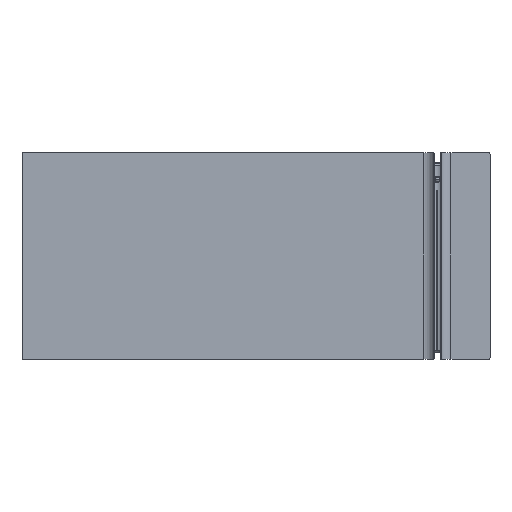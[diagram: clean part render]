
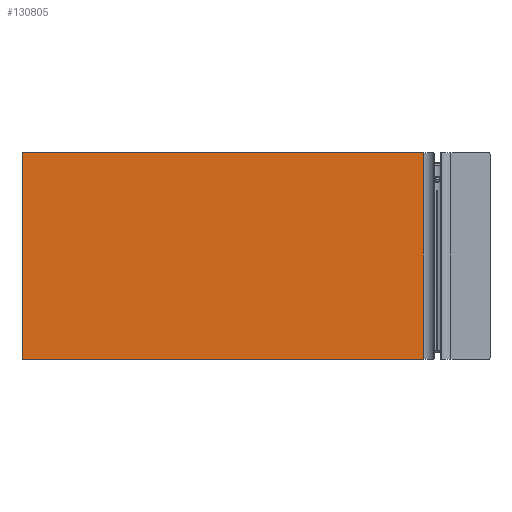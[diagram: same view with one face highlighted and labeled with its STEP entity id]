
A CAD part, top view. The second image highlights one B-rep face of the part: STEP entity #130805.
In plain terms, the highlighted planar face has unit normal (0, 0, 1).
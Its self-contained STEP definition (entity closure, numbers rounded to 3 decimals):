
#130529 = VERTEX_POINT('',#130530);
#130530 = CARTESIAN_POINT('',(3.,-225.,1.5));
#130536 = EDGE_CURVE('',#130537,#130529,#130539,.T.);
#130537 = VERTEX_POINT('',#130538);
#130538 = CARTESIAN_POINT('',(875.,-225.,1.5));
#130539 = LINE('',#130540,#130541);
#130540 = CARTESIAN_POINT('',(875.,-225.,1.5));
#130541 = VECTOR('',#130542,1.);
#130542 = DIRECTION('',(-1.,0.,0.));
#130559 = EDGE_CURVE('',#130560,#130529,#130562,.T.);
#130560 = VERTEX_POINT('',#130561);
#130561 = CARTESIAN_POINT('',(0.,-222.,1.5));
#130562 = CIRCLE('',#130563,3.);
#130563 = AXIS2_PLACEMENT_3D('',#130564,#130565,#130566);
#130564 = CARTESIAN_POINT('',(3.,-222.,1.5));
#130565 = DIRECTION('',(0.,0.,1.));
#130566 = DIRECTION('',(-1.,0.,0.));
#130584 = VERTEX_POINT('',#130585);
#130585 = CARTESIAN_POINT('',(0.,222.,1.5));
#130591 = EDGE_CURVE('',#130560,#130584,#130592,.T.);
#130592 = LINE('',#130593,#130594);
#130593 = CARTESIAN_POINT('',(0.,-222.,1.5));
#130594 = VECTOR('',#130595,1.);
#130595 = DIRECTION('',(0.,1.,0.));
#130608 = EDGE_CURVE('',#130609,#130584,#130611,.T.);
#130609 = VERTEX_POINT('',#130610);
#130610 = CARTESIAN_POINT('',(3.,225.,1.5));
#130611 = CIRCLE('',#130612,3.);
#130612 = AXIS2_PLACEMENT_3D('',#130613,#130614,#130615);
#130613 = CARTESIAN_POINT('',(3.,222.,1.5));
#130614 = DIRECTION('',(0.,-0.,1.));
#130615 = DIRECTION('',(0.,1.,0.));
#130634 = VERTEX_POINT('',#130635);
#130635 = CARTESIAN_POINT('',(875.,225.,1.5));
#130641 = EDGE_CURVE('',#130634,#130609,#130642,.T.);
#130642 = LINE('',#130643,#130644);
#130643 = CARTESIAN_POINT('',(875.,225.,1.5));
#130644 = VECTOR('',#130645,1.);
#130645 = DIRECTION('',(-1.,0.,0.));
#130764 = EDGE_CURVE('',#130537,#130634,#130765,.T.);
#130765 = LINE('',#130766,#130767);
#130766 = CARTESIAN_POINT('',(875.,-225.,1.5));
#130767 = VECTOR('',#130768,1.);
#130768 = DIRECTION('',(0.,1.,0.));
#130805 = ADVANCED_FACE('',(#130806),#130814,.F.);
#130806 = FACE_BOUND('',#130807,.F.);
#130807 = EDGE_LOOP('',(#130808,#130809,#130810,#130811,#130812,#130813)
  );
#130808 = ORIENTED_EDGE('',*,*,#130536,.T.);
#130809 = ORIENTED_EDGE('',*,*,#130559,.F.);
#130810 = ORIENTED_EDGE('',*,*,#130591,.T.);
#130811 = ORIENTED_EDGE('',*,*,#130608,.F.);
#130812 = ORIENTED_EDGE('',*,*,#130641,.F.);
#130813 = ORIENTED_EDGE('',*,*,#130764,.F.);
#130814 = PLANE('',#130815);
#130815 = AXIS2_PLACEMENT_3D('',#130816,#130817,#130818);
#130816 = CARTESIAN_POINT('',(875.,-225.,1.5));
#130817 = DIRECTION('',(0.,0.,-1.));
#130818 = DIRECTION('',(-1.,0.,0.));
